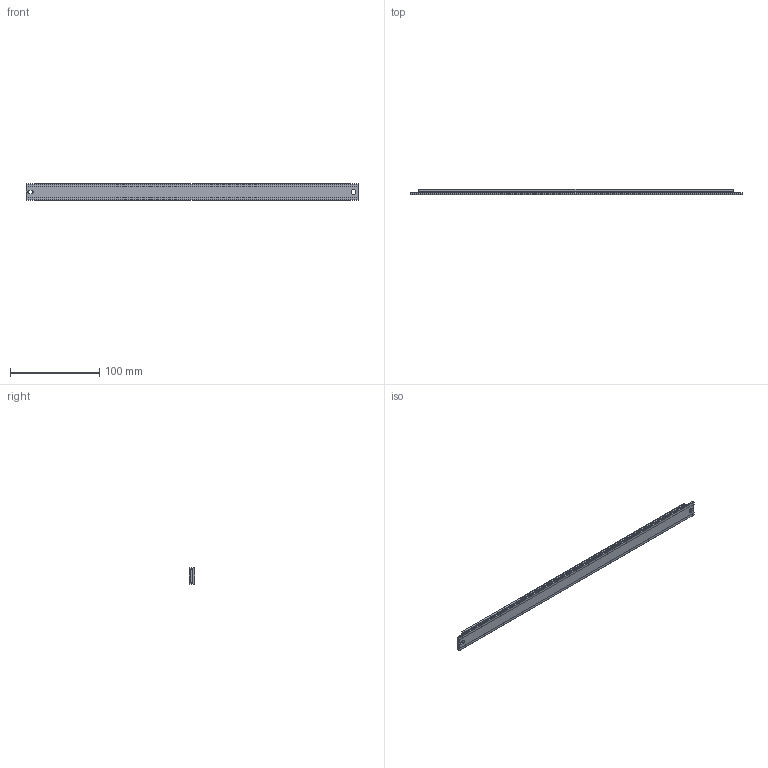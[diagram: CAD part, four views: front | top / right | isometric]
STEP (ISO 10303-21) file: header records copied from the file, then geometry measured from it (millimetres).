
FILE_DESCRIPTION (( 'STEP AP214' ), '1' );
FILE_NAME ('SAScale_exposed.ScaleLneght372.STEP', '2026-03-10T09:10:49', ( '' ), ( '' ), 'SwSTEP 2.0', 'SolidWorks 2024', '' );
FILE_SCHEMA (( 'AUTOMOTIVE_DESIGN' ));
Length unit declared in the file: millimetre
Products named in the file (1): SAScale_exposed.ScaleLneght372
Bounding box: 372 x 6 x 18 mm (x, y, z)
Volume: 35839.2 mm3; surface area: 31366 mm2
Topology: 2 solids, 2 shells, 52 faces, 141 edges, 94 vertices
Faces by surface type: plane 37, cylinder 15
Entity records: 2247 total; most frequent: CARTESIAN_POINT 288, ORIENTED_EDGE 282, DIRECTION 277, EDGE_CURVE 141, VECTOR 111, LINE 111, VERTEX_POINT 94, AXIS2_PLACEMENT_3D 83
